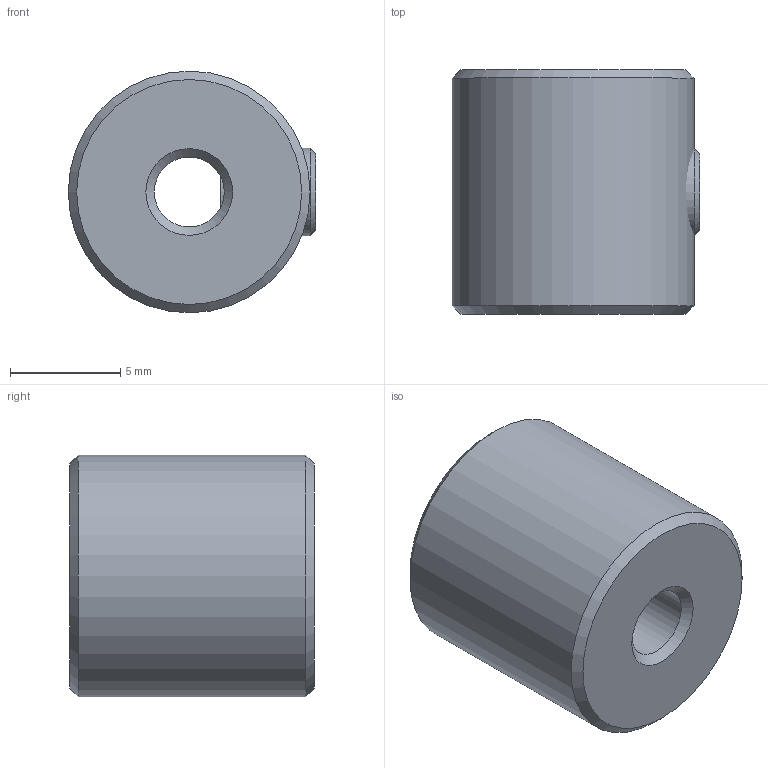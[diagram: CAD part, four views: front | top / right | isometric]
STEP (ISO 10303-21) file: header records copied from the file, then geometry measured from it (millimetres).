
FILE_DESCRIPTION(/* description */ (''),/* implementation_level */ '2;1');
FILE_NAME(/* name */ 'C:/Users/drich/Desktop/D-250 v2.step',/* time_stamp */ '2020-01-08T19:14:54-06:00',/* author */ (''),/* organization */ (''),/* preprocessor_version */ 'ST-DEVELOPER v18',/* originating_system */ 'Autodesk Translation Framework v8.12.0.6',/* authorisation */ '');
FILE_SCHEMA (('AUTOMOTIVE_DESIGN { 1 0 10303 214 3 1 1 }'));
Length unit declared in the file: inch
Products named in the file (1): D-250
Bounding box: 11.23 x 11.1 x 10.97 mm (x, y, z)
Volume: 1000.1 mm3; surface area: 739 mm2
Topology: 2 solids, 2 shells, 26 faces, 59 edges, 39 vertices
Faces by surface type: plane 18, cone 5, cylinder 3
Full cylindrical faces by diameter (mm): 3.175 x1, 3.962 x1, 10.973 x1
Entity records: 779 total; most frequent: DIRECTION 132, CARTESIAN_POINT 125, ORIENTED_EDGE 118, EDGE_CURVE 59, AXIS2_PLACEMENT_3D 46, LINE 40, VECTOR 40, VERTEX_POINT 39
